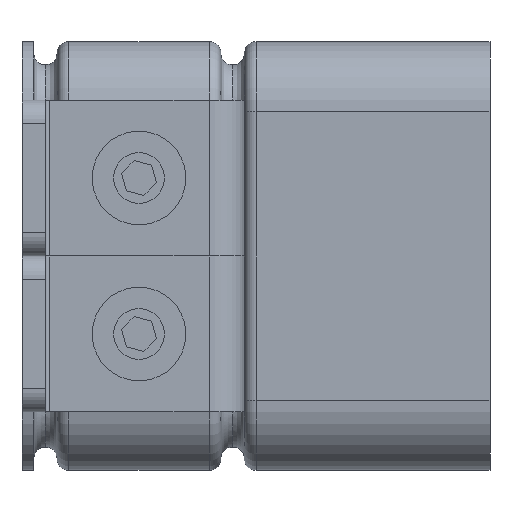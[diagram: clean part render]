
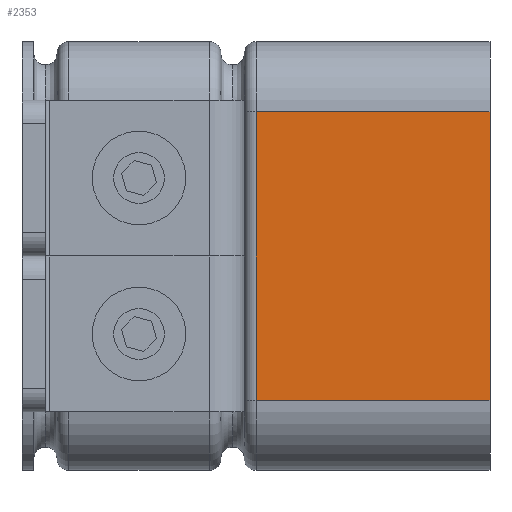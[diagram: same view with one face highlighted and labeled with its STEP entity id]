
A CAD part, front view. The second image highlights one B-rep face of the part: STEP entity #2353.
In plain terms, the highlighted planar face has unit normal (0, -1, 0).
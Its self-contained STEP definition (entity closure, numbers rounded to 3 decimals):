
#1564=CARTESIAN_POINT('',(-30.,-42.5,-26.474));
#1565=VERTEX_POINT('',#1564);
#1598=CARTESIAN_POINT('',(0.,-42.5,-26.474));
#1599=VERTEX_POINT('',#1598);
#1607=CARTESIAN_POINT('',(-30.,-42.5,-26.474));
#1608=DIRECTION('',(1.0,0.0,0.0));
#1609=VECTOR('',#1608,30.);
#1610=LINE('',#1607,#1609);
#1611=EDGE_CURVE('',#1565,#1599,#1610,.T.);
#2304=CARTESIAN_POINT('',(-30.,-42.5,10.526));
#2305=VERTEX_POINT('',#2304);
#2306=CARTESIAN_POINT('',(-30.,-42.5,10.526));
#2307=DIRECTION('',(0.0,0.0,-1.0));
#2308=VECTOR('',#2307,37.);
#2309=LINE('',#2306,#2308);
#2310=EDGE_CURVE('',#2305,#1565,#2309,.T.);
#2330=CARTESIAN_POINT('',(-30.,-42.5,10.526));
#2331=DIRECTION('',(0.0,-1.0,0.0));
#2332=DIRECTION('',(0.0,0.0,-1.0));
#2333=AXIS2_PLACEMENT_3D('',#2330,#2331,#2332);
#2334=PLANE('',#2333);
#2335=ORIENTED_EDGE('',*,*,#1611,.T.);
#2336=CARTESIAN_POINT('',(0.,-42.5,10.526));
#2337=VERTEX_POINT('',#2336);
#2338=CARTESIAN_POINT('',(0.,-42.5,10.526));
#2339=DIRECTION('',(0.0,0.0,-1.0));
#2340=VECTOR('',#2339,37.);
#2341=LINE('',#2338,#2340);
#2342=EDGE_CURVE('',#2337,#1599,#2341,.T.);
#2343=ORIENTED_EDGE('',*,*,#2342,.F.);
#2344=CARTESIAN_POINT('',(-30.,-42.5,10.526));
#2345=DIRECTION('',(1.0,0.0,0.0));
#2346=VECTOR('',#2345,30.);
#2347=LINE('',#2344,#2346);
#2348=EDGE_CURVE('',#2305,#2337,#2347,.T.);
#2349=ORIENTED_EDGE('',*,*,#2348,.F.);
#2350=ORIENTED_EDGE('',*,*,#2310,.T.);
#2351=EDGE_LOOP('',(#2335,#2343,#2349,#2350));
#2352=FACE_OUTER_BOUND('',#2351,.T.);
#2353=ADVANCED_FACE('',(#2352),#2334,.T.);
